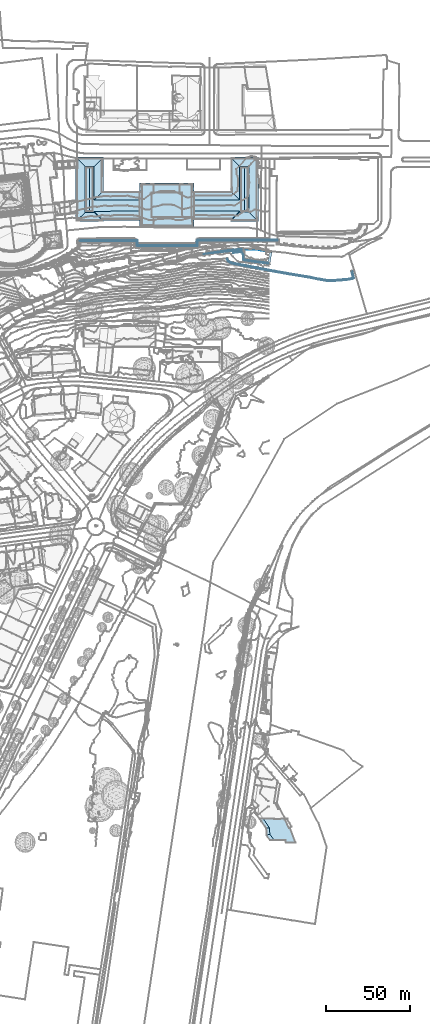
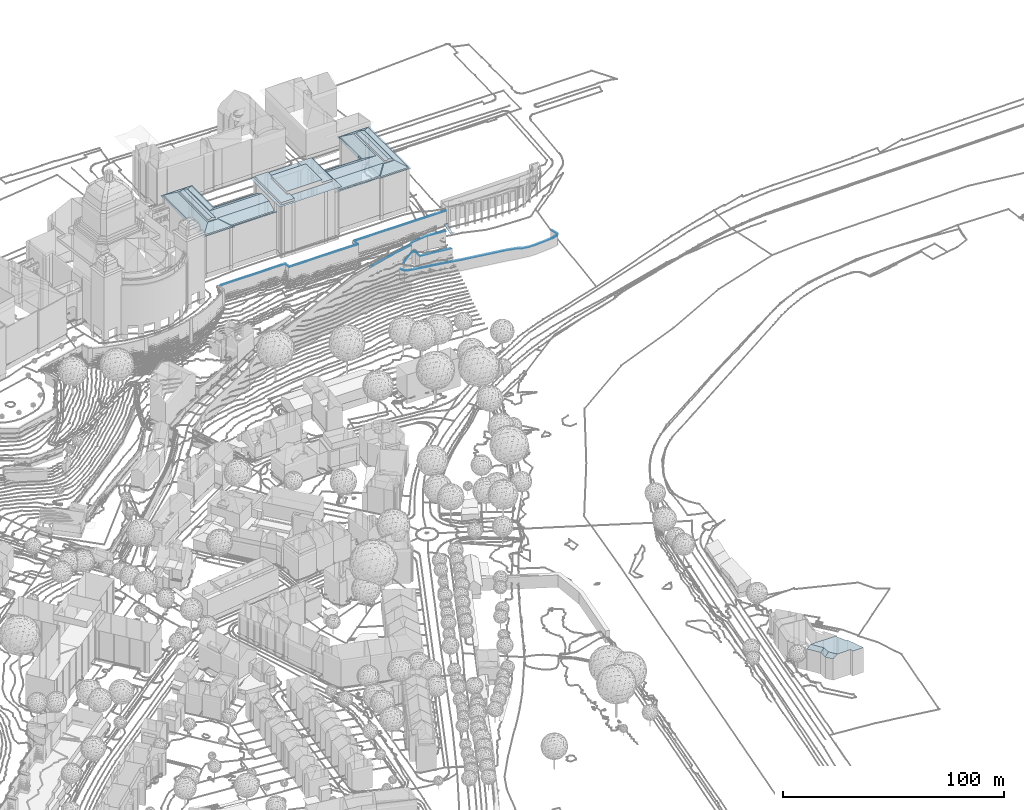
# Not in any storey, part 86 of 477: 17 roofs.
"""IFC4 building model written with IfcOpenShell, lengths in metres."""

import ifcopenshell
import ifcopenshell.guid

model = None  # the IFC model being written
_history = None  # IfcOwnerHistory: only IFC2X3 demands one
_inside = {}  # id of a spatial element -> (the spatial element, [elements in it])
_under = {}  # id of a project, library or spatial element -> (it, [spatial elements below it])
_declared = {}  # id of a project -> (the project, [libraries it declares])
_typed = {}  # id of a type object -> (the type object, [elements of that type])
_made_of = {}  # id of a material, layer set ... -> (it, [elements and type objects made of it])


def new_model(schema):
    """Start an empty IFC model of exactly this schema.

    Asked for "IFC4X3", IfcOpenShell would pick the latest addendum, in which some entities
    have other attributes; the version numbers below select the first issue.
    IFC2X3 requires an IfcOwnerHistory on every rooted entity: one is made here for all.
    """
    global model, _history
    if schema == "IFC4X3":
        model = ifcopenshell.file(schema_version=(4, 3, 0, 0))
    else:
        model = ifcopenshell.file(schema=schema)
    _inside.clear()
    _under.clear()
    _declared.clear()
    _typed.clear()
    _made_of.clear()
    _history = None
    if model.schema == "IFC2X3":
        org = make("IfcOrganization", Name="unknown")
        user = make(
            "IfcPersonAndOrganization",
            ThePerson=make("IfcPerson", FamilyName="unknown"),
            TheOrganization=org,
        )
        app = make(
            "IfcApplication",
            ApplicationDeveloper=org,
            Version="unknown",
            ApplicationFullName="unknown",
            ApplicationIdentifier="unknown",
        )
        _history = make(
            "IfcOwnerHistory",
            OwningUser=user,
            OwningApplication=app,
            ChangeAction="ADDED",
            CreationDate=0,
        )
    return model


def make(cls, **values):
    """One entity of the class cls with the attributes given. An attribute that is None is left unset."""
    return model.create_entity(
        cls, **{name: value for name, value in values.items() if value is not None}
    )


def rooted(cls, **values):
    """An entity with a GlobalId (a new one), such as an element, a storey or a relation."""
    return make(cls, GlobalId=ifcopenshell.guid.new(), OwnerHistory=_history, **values)


def si_unit(unit_type, name, prefix=None):
    """IfcSIUnit, for example si_unit("LENGTHUNIT", "METRE", prefix="MILLI")."""
    return make("IfcSIUnit", UnitType=unit_type, Prefix=prefix, Name=name)


def assignment(units):
    """IfcUnitAssignment: the units of a project."""
    return None if units is None else make("IfcUnitAssignment", Units=units)


def point(xyz):
    """IfcCartesianPoint."""
    return None if xyz is None else make("IfcCartesianPoint", Coordinates=xyz)


def direction(xyz):
    """IfcDirection."""
    return None if xyz is None else make("IfcDirection", DirectionRatios=xyz)


def frame(location, z_axis=None, x_axis=None):
    """IfcAxis2Placement3D, a coordinate frame: its origin and axes. An axis left out is left unset."""
    return make(
        "IfcAxis2Placement3D",
        Location=point(location),
        Axis=direction(z_axis),
        RefDirection=direction(x_axis),
    )


def origin_with_axes():
    """The frame at (0, 0, 0) with the z axis (0, 0, 1) and the x axis (1, 0, 0) written out."""
    return frame((0.0, 0.0, 0.0), z_axis=(0.0, 0.0, 1.0), x_axis=(1.0, 0.0, 0.0))


def place(relative_to, where):
    """IfcLocalPlacement: puts the frame where relative to a parent placement (None: the world)."""
    return make(
        "IfcLocalPlacement", PlacementRelTo=relative_to, RelativePlacement=where
    )


def context(
    kind, dimensions, precision=None, world=None, true_north=None, identifier=None
):
    """IfcGeometricRepresentationContext, for example the 3D "Model" context."""
    return make(
        "IfcGeometricRepresentationContext",
        ContextIdentifier=identifier,
        ContextType=kind,
        CoordinateSpaceDimension=dimensions,
        Precision=precision,
        WorldCoordinateSystem=world,
        TrueNorth=true_north,
    )


def subcontext(parent, identifier, kind, view, scale=None):
    """IfcGeometricRepresentationSubContext, for example "Body" below "Model"."""
    return make(
        "IfcGeometricRepresentationSubContext",
        ContextIdentifier=identifier,
        ContextType=kind,
        ParentContext=parent,
        TargetScale=scale,
        TargetView=view,
    )


def project(units=None, contexts=None):
    """IfcProject with its units and contexts."""
    return rooted(
        "IfcProject",
        Name="project",
        RepresentationContexts=contexts,
        UnitsInContext=assignment(units),
    )


def spatial(cls, under=None, at=None, **own):
    """A site, building, storey or space (cls), placed at a placement, below another one or the project."""
    s = rooted(cls, ObjectPlacement=at, **own)
    if under is not None:
        _under.setdefault(under.id(), (under, []))[1].append(s)
    return s


def point_list(points):
    """IfcCartesianPointList2D or 3D."""
    cls = (
        "IfcCartesianPointList2D" if len(points[0]) == 2 else "IfcCartesianPointList3D"
    )
    return make(cls, CoordList=points)


def polygons(points, faces, closed=None, point_numbers=None):
    """IfcPolygonalFaceSet: a face is its outer loop, then its inner loops; points numbered from 1."""
    made = []
    for loops in faces:
        if len(loops) == 1:
            made.append(make("IfcIndexedPolygonalFace", CoordIndex=loops[0]))
        else:
            made.append(
                make(
                    "IfcIndexedPolygonalFaceWithVoids",
                    CoordIndex=loops[0],
                    InnerCoordIndices=loops[1:],
                )
            )
    return make(
        "IfcPolygonalFaceSet",
        Coordinates=point_list(points),
        Closed=closed,
        Faces=made,
        PnIndex=point_numbers,
    )


def shape(context_of_items, identifier, shape_type, items):
    """IfcShapeRepresentation: the items that make up one representation, for example the "Body"."""
    return make(
        "IfcShapeRepresentation",
        ContextOfItems=context_of_items,
        RepresentationIdentifier=identifier,
        RepresentationType=shape_type,
        Items=items,
    )


def made_of(thing, what):
    """Note that an element or type object is made of a material, layer set ...; save() writes the relation."""
    if what is not None:
        _made_of.setdefault(what.id(), (what, []))[1].append(thing)
    return thing


def element(
    cls,
    number,
    at=None,
    inside=None,
    cuts=None,
    type_object=None,
    material=None,
    context=None,
    identifier="Body",
    shape_type=None,
    held_by="IfcProductDefinitionShape",
    body=None,
    shapes=None,
    **own,
):
    """One element of the class cls, such as IfcWall. Its Tag is "e" and its number.

    at: its placement. inside: the storey or other place that contains it. cuts: it is an
    opening in that element (IfcRelVoidsElement). A single representation is given by context,
    identifier, shape_type and body (its items); several are given by shapes. held_by: the class
    of the entity that holds the representations. save() writes the other relations.
    """
    e = rooted(cls, Tag="e%d" % number, ObjectPlacement=at, **own)
    if body is not None:
        shapes = [shape(context, identifier, shape_type, body)]
    if shapes is not None:
        e.Representation = make(held_by, Representations=shapes)
    if inside is not None:
        _inside.setdefault(inside.id(), (inside, []))[1].append(e)
    if cuts is not None:
        rooted(
            "IfcRelVoidsElement", RelatingBuildingElement=cuts, RelatedOpeningElement=e
        )
    if type_object is not None:
        _typed.setdefault(type_object.id(), (type_object, []))[1].append(e)
    return made_of(e, material)


def aggregate(whole, parts):
    """IfcRelAggregates: a whole, such as a stair, and the parts it consists of."""
    return rooted("IfcRelAggregates", RelatingObject=whole, RelatedObjects=parts)


def save(model, path):
    """Write the relations noted so far, then the file.

    IfcRelAggregates (storeys below a building ...), IfcRelContainedInSpatialStructure (elements
    in a storey), IfcRelDefinesByType, IfcRelAssociatesMaterial and IfcRelDeclares: one each for
    every whole, place, type object, material and project.
    """
    for whole, parts in _under.values():
        aggregate(whole, parts)
    for where, things in _inside.values():
        rooted(
            "IfcRelContainedInSpatialStructure",
            RelatedElements=things,
            RelatingStructure=where,
        )
    for kind, things in _typed.values():
        rooted("IfcRelDefinesByType", RelatedObjects=things, RelatingType=kind)
    for what, things in _made_of.values():
        rooted("IfcRelAssociatesMaterial", RelatedObjects=things, RelatingMaterial=what)
    for by, libraries in _declared.values():
        rooted("IfcRelDeclares", RelatingContext=by, RelatedDefinitions=libraries)
    model.write(path)


model = new_model("IFC4")

# Units and contexts
model_context = context("Model", 3, precision=1e-05, world=origin_with_axes())
body_context = subcontext(model_context, "Body", "Model", "MODEL_VIEW")
ifc_project = project(units=[si_unit("AREAUNIT", "SQUARE_METRE"), si_unit("LENGTHUNIT", "METRE")], contexts=[model_context])

# Sites, building
site_1_placement = place(None, origin_with_axes())
site_1 = spatial("IfcSite", under=ifc_project, at=site_1_placement, Name="Topoexport Site")
site_2_placement = place(site_1_placement, origin_with_axes())
site_2 = spatial("IfcSite", under=site_1, at=site_2_placement, Name="TPX_BUILDINGS")
building_1_placement = place(site_2_placement, frame((211.8297320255, 101.9383160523, 526.7541), z_axis=(0.0, 0.0, 1.0), x_axis=(1.0, 0.0, 0.0)))
building_1 = spatial("IfcBuilding", under=site_2, at=building_1_placement, Name="Building 18", CompositionType="ELEMENT")

# Roofs
roof_1_placement = place(None, frame((211.8297320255, 101.9383160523, 526.7541), z_axis=(0.0, 0.0, 1.0), x_axis=(1.0, 0.0, 0.0)))
element("IfcRoof", 1, at=roof_1_placement, inside=building_1, Name="Roof 1", context=body_context, shape_type="Tessellation", body=[
    polygons([(481.6610000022, 258.5654000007, 13.2577), (458.5340000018, 258.5155999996, 13.2578), (458.5340000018, 259.1182000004, 13.2578), (481.6600000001, 259.1680000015, 13.2578), (373.694000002, 259.0078000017, 13.3187), (373.694000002, 258.4043000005, 13.3187), (363.3159999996, 258.4228000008, 13.3187), (363.3269999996, 259.0254000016, 13.3187), (397.2360000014, 258.4268000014, 13.3188), (397.8360000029, 259.0302999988, 13.3188), (397.8530000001, 256.0516999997, 13.3188), (397.2530000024, 255.4492000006, 13.3188), (433.2310000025, 256.0078000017, 13.3188), (433.8430000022, 255.4032999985, 13.3188), (433.7950000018, 258.5439000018, 13.3188), (433.1830000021, 259.1475000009, 13.3188)], [[[3, 2, 1]], [[1, 4, 3]], [[7, 6, 5]], [[7, 5, 8]], [[5, 6, 9]], [[5, 9, 10]], [[9, 12, 11]], [[12, 13, 11]], [[13, 12, 14]], [[13, 14, 15]], [[15, 16, 13]], [[11, 10, 9]], [[16, 15, 3]], [[2, 3, 15]]]),
])
roof_2_placement = place(None, frame((211.8297320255, 101.9383160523, 526.7541), z_axis=(0.0, 0.0, 1.0), x_axis=(1.0, 0.0, 0.0)))
element("IfcRoof", 2, at=roof_2_placement, inside=building_1, Name="Roof 50", context=body_context, shape_type="Tessellation", body=[
    polygons([(460.1730000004, 253.6680000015, 4.9256), (457.8430000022, 252.7675999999, 4.8446), (457.7770000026, 253.4296999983, 4.8446), (460.2239999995, 253.1543000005, 4.9256), (449.8500000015, 251.9706999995, 4.0297), (436.7320000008, 250.5683000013, 2.4808), (449.7650000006, 252.6308000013, 4.0297)], [[[3, 2, 1]], [[4, 1, 2]], [[7, 6, 5]], [[2, 3, 5]], [[7, 5, 3]]]),
])
roof_3_placement = place(None, frame((211.8297320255, 101.9383160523, 526.7541), z_axis=(0.0, 0.0, 1.0), x_axis=(1.0, 0.0, 0.0)))
element("IfcRoof", 3, at=roof_3_placement, inside=building_1, Name="Roof 51", context=body_context, shape_type="Tessellation", body=[
    polygons([(468.6530000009, 253.8467000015, 7.0034), (477.5230000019, 252.2578000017, 7.7073), (477.4140000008, 251.6435000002, 7.7063), (468.6080000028, 253.2734000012, 7.0034), (460.2239999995, 253.1543000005, 6.2074), (460.1730000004, 253.6708999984, 6.2034)], [[[3, 2, 1]], [[1, 4, 3]], [[4, 1, 5]], [[6, 5, 1]]]),
])
roof_4_placement = place(None, frame((211.8297320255, 101.9383160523, 526.7541), z_axis=(0.0, 0.0, 1.0), x_axis=(1.0, 0.0, 0.0)))
element("IfcRoof", 4, at=roof_4_placement, inside=building_1, Name="Roof 52", context=body_context, shape_type="Tessellation", body=[
    polygons([(476.2829999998, 245.2578000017, 2.5478), (475.7760000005, 244.870099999, 2.5538), (475.8460000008, 245.3339999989, 2.5538), (476.2010000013, 244.7958999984, 2.5478), (467.7980000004, 246.3330000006, 2.5538), (467.7340000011, 245.8691000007, 2.5538), (460.9220000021, 246.9032999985, 2.3698), (461.3780000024, 247.308600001, 2.3698), (460.8049999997, 250.5009999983, 2.3698), (461.2690000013, 250.6649999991, 2.3698), (459.8090000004, 251.8104999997, 2.1868), (460.0170000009, 252.3104999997, 2.1868), (455.0830000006, 251.1865000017, -1.6508), (459.9189999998, 252.2978000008, 1.9069), (455.1900000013, 251.2001999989, -1.7688), (455.0830000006, 251.1865000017, -1.8508), (460.0170000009, 252.3104999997, 1.9868), (455.0210000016, 251.6513999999, -1.6508)], [[[3, 2, 1]], [[4, 1, 2]], [[2, 3, 5]], [[5, 6, 2]], [[5, 7, 6]], [[7, 5, 8]], [[10, 9, 8]], [[7, 8, 9]], [[9, 12, 11]], [[10, 12, 9]], [[12, 13, 11]], [[16, 15, 14]], [[17, 14, 15]], [[13, 12, 18]]]),
])
roof_5_placement = place(None, frame((211.8297320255, 101.9383160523, 526.7541), z_axis=(0.0, 0.0, 1.0), x_axis=(1.0, 0.0, 0.0)))
element("IfcRoof", 5, at=roof_5_placement, inside=building_1, Name="Roof 81", context=body_context, shape_type="Tessellation", body=[
    polygons([(500.449000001, 236.4404000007, -1.8389), (488.8709999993, 238.9609000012, -1.8388), (500.5580000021, 237.0214999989, -1.8389), (488.7719999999, 238.378899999, -1.8388), (479.5970000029, 239.9638000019, -1.8388), (468.1980000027, 242.1719000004, -1.8388), (468.3090000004, 242.7518999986, -1.8388), (479.7039999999, 240.5458999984, -1.8388), (505.7670000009, 235.9442999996, -2.0218), (505.6630000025, 235.3623000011, -2.0218), (514.381000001, 235.0117000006, -2.5718), (510.9680000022, 234.4814000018, -2.5718), (511.0240000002, 235.0713, -2.5718), (507.7270000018, 235.6435000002, -2.5718), (507.632000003, 235.0595999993, -2.5718), (514.3969999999, 234.4189000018, -2.5718), (523.4180000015, 235.7626999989, -2.5718), (523.5020000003, 235.1766999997, -2.5718), (518.5439999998, 234.7256000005, -2.5718), (518.4959999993, 235.3154000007, -2.5718), (526.4680000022, 235.7578000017, -2.2968), (523.5022, 235.1766999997, -2.774), (526.4681000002, 235.7573999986, -2.4969), (526.4169999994, 235.7470000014, -2.5018), (526.2390000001, 236.3154000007, -2.2968), (527.2090000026, 236.2470999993, -1.8389), (526.5410000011, 236.5146000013, -1.8389), (525.7050000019, 240.1484000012, -1.8389), (526.25, 240.4120999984, -1.8389), (450.9820000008, 247.8495999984, -1.9298), (452.6150000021, 246.2402000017, -1.9298), (452.188000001, 245.8007999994, -1.9298), (454.012000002, 245.4717000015, -1.9298), (451.4920000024, 248.1493999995, -1.9298), (453.8090000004, 244.9072000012, -1.9298)], [[[3, 2, 1]], [[4, 1, 2]], [[2, 5, 4]], [[8, 7, 6]], [[6, 5, 8]], [[8, 5, 2]], [[3, 1, 9]], [[10, 9, 1]], [[13, 12, 11]], [[15, 13, 14]], [[13, 15, 12]], [[12, 16, 11]], [[19, 18, 17]], [[11, 16, 20]], [[17, 20, 19]], [[20, 16, 19]], [[21, 17, 18]], [[24, 23, 22]], [[26, 25, 21]], [[17, 21, 25]], [[28, 27, 26]], [[28, 26, 29]], [[15, 14, 9]], [[9, 10, 15]], [[32, 31, 30]], [[31, 32, 33]], [[34, 30, 31]], [[35, 6, 33]], [[7, 33, 6]], [[35, 33, 32]], [[25, 26, 27]]]),
])
roof_6_placement = place(None, frame((211.8297320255, 101.9383160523, 526.7541), z_axis=(0.0, 0.0, 1.0), x_axis=(1.0, 0.0, 0.0)))
element("IfcRoof", 6, at=roof_6_placement, inside=building_1, Name="Roof 87", context=body_context, shape_type="Tessellation", body=[
    polygons([(478.7250000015, 252.2930000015, 11.1179), (478.1689999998, 252.2050999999, 11.1179), (476.8360000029, 252.6338, 11.118), (475.5580000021, 244.808600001, 11.1179), (478.6970000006, 252.1220999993, 11.1179), (477.4470000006, 244.4657999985, 11.1179), (476.938000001, 244.6649999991, 11.1179), (477.4640000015, 244.5722000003, 11.1179), (477.2010000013, 244.621100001, 11.1179)], [[[3, 2, 1]], [[2, 3, 4]], [[5, 1, 2]], [[7, 4, 6]], [[4, 7, 2]], [[9, 6, 8]], [[6, 9, 7]]]),
])

# Building
building_2_placement = place(site_2_placement, frame((682.616732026, 15.1316160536, 498.9643), z_axis=(0.0, 0.0, 1.0), x_axis=(1.0, 0.0, 0.0)))
building_2 = spatial("IfcBuilding", under=site_2, at=building_2_placement, Name="Building 187", CompositionType="ELEMENT")

# Roof
roof_7_placement = place(None, frame((682.616732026, 15.1316160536, 498.9643), z_axis=(0.0, 0.0, 1.0), x_axis=(1.0, 0.0, 0.0)))
element("IfcRoof", 7, at=roof_7_placement, inside=building_2, Name="Roof 0", context=body_context, shape_type="Tessellation", body=[
    polygons([(0.5950000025, 0.0078999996, 12.3008), (5.9189999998, -5.4033000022, 13.6636), (1.1270000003, -1.5361000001, 11.8438), (1.0600000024, -1.4824000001, 11.8178), (2.1720000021, 0.0273999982, 13.6636), (3.3480000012, -4.5625, 11.8178), (-0.0379999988, 0.0020000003, 11.8178), (0.0, 0.0, 11.8468), (8.512000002, 0.1083999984, 13.6986), (8.7820000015, -0.058600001, 13.6976), (8.7800000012, 0.111399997, 13.6986), (8.9470000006, -0.0566000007, 13.6976), (15.074000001, -0.3164000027, 13.7346), (14.9220000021, 0.0196000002, 13.7346), (17.5820000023, -5.5849000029, 13.7346), (10.2690000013, -12.7324000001, 13.6706), (9.0830000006, -12.7470000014, 13.6636), (15.637000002, -0.1053999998, 13.7346), (15.561999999, 0.0273999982, 13.7346), (10.300999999, -12.7324000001, 13.6706), (18.1359999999, -5.3476000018, 13.7346), (15.6960000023, -12.6611000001, 13.7036), (21.4649999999, -14.1865000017, 13.7346), (15.7170000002, -14.2617000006, 13.6996), (8.8110000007, -12.7509000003, 13.6636), (6.0520000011, -9.1816000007, 13.6636), (6.4220000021, -12.7861000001, 11.8178), (4.1150000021, -9.6581999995, 11.8718), (4.1160000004, -9.7519000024, 11.8178), (4.0560000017, -9.6718000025, 11.8178), (4.0549999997, -5.5224000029, 11.8178)], [[[3, 2, 1]], [[3, 1, 4]], [[1, 2, 5]], [[6, 2, 3]], [[3, 4, 6]], [[8, 7, 4]], [[8, 4, 1]], [[5, 2, 9]], [[9, 2, 10]], [[10, 11, 9]], [[12, 10, 2]], [[12, 2, 13]], [[13, 14, 12]], [[15, 13, 2]], [[2, 17, 16]], [[16, 15, 2]], [[14, 13, 18]], [[18, 19, 14]], [[16, 20, 15]], [[21, 15, 20]], [[20, 22, 21]], [[23, 21, 22]], [[23, 22, 24]], [[2, 26, 25]], [[25, 17, 2]], [[25, 26, 27]], [[29, 27, 28]], [[28, 30, 29]], [[26, 28, 27]], [[31, 26, 2]], [[31, 30, 28]], [[28, 26, 31]], [[2, 6, 31]]]),
])

# Building
building_3_placement = place(site_2_placement, frame((572.3587320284, 408.4910160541, 550.1071), z_axis=(0.0, 0.0, 1.0), x_axis=(1.0, 0.0, 0.0)))
building_3 = spatial("IfcBuilding", under=site_2, at=building_3_placement, Name="Building 194", CompositionType="ELEMENT")

# Roofs
roof_8_placement = place(None, frame((572.3587320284, 408.4910160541, 550.1071), z_axis=(0.0, 0.0, 1.0), x_axis=(1.0, 0.0, 0.0)))
element("IfcRoof", 8, at=roof_8_placement, inside=building_3, Name="Roof 0", context=body_context, shape_type="Tessellation", body=[
    polygons([(6.6459999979, -30.3203000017, 13.5455), (10.6089999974, -30.3193000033, 13.5455), (5.9449999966, -31.0781000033, 13.5455), (11.3729999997, -31.0752000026, 13.5455), (6.6349999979, -4.3623000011, 13.5457), (10.5989999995, -4.3613000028, 13.5457), (5.9339999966, -3.4980000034, 13.5457), (11.362999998, -3.496100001, 13.5457), (11.3699999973, -23.6347000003, 13.5455), (38.5969999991, -30.3076000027, 13.5456), (11.3729999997, -30.3183000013, 13.5455), (38.5949999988, -23.6240000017, 13.5456), (16.0109999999, -19.0781000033, 10.7918), (38.5929999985, -19.0693000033, 10.7919), (16.0179999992, -34.871100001, 10.7917), (38.5989999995, -34.8623000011, 10.7919), (16.0179999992, -35.5986000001, 10.7917), (16.0029999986, 1.0302999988, 10.792), (2.5319999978, 1.0243999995, 10.792), (1.2899999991, 1.0243999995, 10.792), (14.682, 1.0292999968, 10.792), (1.3039999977, -35.6045000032, 10.7918)], [[[3, 2, 1]], [[2, 3, 4]], [[3, 1, 5]], [[7, 5, 6]], [[5, 7, 3]], [[7, 6, 8]], [[2, 9, 6]], [[11, 10, 9]], [[11, 9, 2]], [[9, 8, 6]], [[12, 9, 10]], [[11, 2, 4]], [[13, 9, 12]], [[12, 14, 13]], [[11, 15, 10]], [[16, 10, 15]], [[11, 4, 15]], [[17, 15, 4]], [[8, 9, 13]], [[13, 18, 8]], [[20, 7, 19]], [[19, 7, 21]], [[8, 18, 21]], [[8, 21, 7]], [[20, 22, 7]], [[3, 7, 22]], [[3, 22, 17]], [[17, 4, 3]]]),
])
roof_9_placement = place(None, frame((572.3587320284, 408.4910160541, 550.1071), z_axis=(0.0, 0.0, 1.0), x_axis=(1.0, 0.0, 0.0)))
element("IfcRoof", 9, at=roof_9_placement, inside=building_3, Name="Roof 1", context=body_context, shape_type="Tessellation", body=[
    polygons([(1.3039999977, -35.6045000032, 10.2878), (0.3549999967, -36.3994000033, 10.2878), (1.2899999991, 1.0243999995, 10.288), (16.9409999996, -36.3935000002, 10.2878), (16.0179999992, -35.5986000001, 10.2878), (16.9409999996, -35.7031000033, 10.2878), (16.0179999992, -34.871100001, 10.2878), (16.0109999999, -19.0781000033, 10.2878), (16.0029999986, 1.0302999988, 10.288), (16.9339999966, -18.1728000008, 10.2878), (2.5319999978, 1.0243999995, 10.288), (0.3399999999, 1.9648999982, 10.288), (14.682, 1.0292999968, 10.288), (16.925999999, 1.9716999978, 10.288), (2.5319999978, 1.003899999, 10.288), (14.682, 1.0068999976, 10.288), (38.5989999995, -34.8623000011, 10.2879), (38.5989999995, -35.0869000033, 10.2879), (39.6439999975, -35.0849000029, 10.2879), (39.6429999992, -35.6943000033, 10.2879), (39.7229999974, -18.1640000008, 10.2879), (38.5929999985, -18.8818000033, 10.2879), (38.5929999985, -19.0693000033, 10.2879), (39.7239999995, -18.8838, 10.2879)], [[[3, 2, 1]], [[5, 1, 4]], [[7, 5, 6]], [[10, 9, 8]], [[1, 2, 4]], [[12, 3, 11]], [[3, 12, 2]], [[12, 11, 13]], [[12, 13, 14]], [[13, 11, 15]], [[16, 13, 15]], [[14, 13, 9]], [[7, 6, 17]], [[6, 18, 17]], [[18, 20, 19]], [[18, 6, 20]], [[10, 22, 21]], [[14, 9, 10]], [[22, 10, 23]], [[24, 21, 22]], [[8, 23, 10]], [[5, 4, 6]]]),
])
roof_10_placement = place(None, frame((572.3587320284, 408.4910160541, 550.1071), z_axis=(0.0, 0.0, 1.0), x_axis=(1.0, 0.0, 0.0)))
element("IfcRoof", 10, at=roof_10_placement, inside=building_3, Name="Roof 4", context=body_context, shape_type="Tessellation", body=[
    polygons([(10.5989999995, -4.3613000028, 14.2046), (8.6849999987, -30.3193000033, 14.6794), (8.674999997, -4.3613000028, 14.6796), (10.6089999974, -30.3193000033, 14.2044), (6.6459999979, -30.3203000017, 14.2044), (6.6349999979, -4.3623000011, 14.2046)], [[[3, 2, 1]], [[4, 1, 2]], [[6, 5, 3]], [[2, 3, 5]]]),
])
roof_11_placement = place(None, frame((572.3587320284, 408.4910160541, 550.1071), z_axis=(0.0, 0.0, 1.0), x_axis=(1.0, 0.0, 0.0)))
element("IfcRoof", 11, at=roof_11_placement, inside=building_3, Name="Roof 5", context=body_context, shape_type="Tessellation", body=[
    polygons([(64.1459999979, -33.9043000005, 18.4771), (45.7109999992, -33.9121000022, 18.4771), (45.7049999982, -19.3359000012, 18.4771), (64.1399999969, -19.3291000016, 18.4771)], [[[3, 2, 1]], [[1, 4, 3]]]),
])
roof_12_placement = place(None, frame((572.3587320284, 408.4910160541, 550.1071), z_axis=(0.0, 0.0, 1.0), x_axis=(1.0, 0.0, 0.0)))
element("IfcRoof", 12, at=roof_12_placement, inside=building_3, Name="Roof 6", context=body_context, shape_type="Tessellation", body=[
    polygons([(45.7109999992, -33.9121000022, 16.9103), (40.123999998, -38.5342000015, 16.9103), (41.5719999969, -14.3994000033, 16.9105), (47.1019999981, -38.5312000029, 16.9103), (45.7049999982, -19.3359000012, 16.9103), (40.1149999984, -14.4062000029, 16.9105), (45.4669999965, -14.3994000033, 16.9105), (47.0919999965, -14.4043000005, 16.9105), (47.0939999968, -19.3349000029, 16.9103), (47.0999999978, -33.9121000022, 16.9103)], [[[3, 2, 1]], [[1, 2, 4]], [[3, 1, 5]], [[2, 3, 6]], [[3, 5, 7]], [[5, 8, 7]], [[9, 8, 5]], [[10, 1, 4]]]),
])
roof_13_placement = place(None, frame((572.3587320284, 408.4910160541, 550.1071), z_axis=(0.0, 0.0, 1.0), x_axis=(1.0, 0.0, 0.0)))
element("IfcRoof", 13, at=roof_13_placement, inside=building_3, Name="Roof 7", context=body_context, shape_type="Tessellation", body=[
    polygons([(47.1019999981, -38.5312000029, 15.7714), (38.6009999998, -39.8340000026, 15.7714), (40.123999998, -38.5342000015, 15.7714), (41.5719999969, -14.3965000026, 15.7716), (40.1149999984, -14.4062000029, 15.7716), (38.5909999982, -13.3867000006, 15.7716), (46.9689999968, -14.4043000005, 15.7716), (47.0919999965, -14.438500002, 15.7716), (46.9689999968, -14.438500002, 15.7716), (62.7609999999, -14.3984000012, 15.7716), (71.0319999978, -13.3730000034, 15.7716), (62.6499999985, -19.3300999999, 15.7714), (47.0939999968, -19.3349000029, 15.7714), (47.0999999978, -33.9111000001, 15.7714), (69.8039999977, -33.9023000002, 15.7713), (62.6479999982, -14.433600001, 15.7716), (71.0419999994, -39.8213, 15.7713), (69.7969999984, -14.3955000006, 15.7716), (62.7599999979, -14.433600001, 15.7716)], [[[3, 2, 1]], [[6, 5, 4]], [[5, 6, 2]], [[2, 3, 5]], [[6, 4, 7]], [[7, 9, 8]], [[7, 8, 10]], [[6, 7, 11]], [[13, 12, 8]], [[15, 14, 1]], [[12, 16, 8]], [[17, 15, 1]], [[15, 11, 18]], [[1, 2, 17]], [[11, 15, 17]], [[16, 19, 10]], [[16, 10, 8]], [[18, 11, 10]], [[10, 11, 7]]]),
])
roof_14_placement = place(None, frame((572.3587320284, 408.4910160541, 550.1071), z_axis=(0.0, 0.0, 1.0), x_axis=(1.0, 0.0, 0.0)))
element("IfcRoof", 14, at=roof_14_placement, inside=building_3, Name="Roof 8", context=body_context, shape_type="Tessellation", body=[
    polygons([(62.6479999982, -14.3984000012, 16.9105), (64.1399999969, -19.3291000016, 16.9103), (62.6499999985, -19.3300999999, 16.9103), (69.8039999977, -33.9023000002, 16.9102), (64.1459999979, -33.9043000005, 16.9102), (69.7969999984, -14.3955000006, 16.9105)], [[[3, 2, 1]], [[5, 4, 2]], [[2, 6, 1]], [[6, 2, 4]]]),
])
roof_15_placement = place(None, frame((572.3587320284, 408.4910160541, 550.1071), z_axis=(0.0, 0.0, 1.0), x_axis=(1.0, 0.0, 0.0)))
element("IfcRoof", 15, at=roof_15_placement, inside=building_3, Name="Roof 9", context=body_context, shape_type="Tessellation", body=[
    polygons([(71.0399999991, -35.0322000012, 10.2879), (70.1159999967, -35.6826000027, 10.2879), (70.1140000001, -35.0410000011, 10.2879), (92.8789999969, -35.6728000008, 10.2878), (71.0399999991, -34.8506000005, 10.2879), (93.6469999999, -34.8418000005, 10.2878), (70.0659999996, -18.1523000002, 10.2879), (92.8719999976, -18.1435000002, 10.2879), (71.0339999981, -18.8506000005, 10.2879), (70.0659999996, -18.8574000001, 10.2879), (93.6389999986, -15.8144000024, 10.2881), (92.8640000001, 2.0019999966, 10.2881), (71.0339999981, -19.0566000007, 10.2879), (93.6329999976, -0.2109000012, 10.2881), (93.6319999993, 1.0605999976, 10.2881), (93.6839999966, -0.2109000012, 10.2881), (93.6389999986, -16.3506000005, 10.2881), (93.6399999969, -18.1279000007, 10.2879), (108.443, 1.066399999, 10.2881), (93.6469999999, -35.567400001, 10.2878), (92.8789999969, -36.3633000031, 10.2878), (93.6399999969, -19.0469000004, 10.2879), (93.6399999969, -18.6543000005, 10.2879), (93.7390000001, -18.6543000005, 10.2879), (93.6399999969, -18.8642000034, 10.2879), (108.4569999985, -35.5625, 10.2878), (109.4659999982, -36.3564000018, 10.2878), (93.7390000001, -18.8642000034, 10.2879), (93.7009999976, -15.8144000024, 10.2881), (93.8829999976, -18.1269000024, 10.2879), (93.868999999, -16.3496000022, 10.2881), (109.4509999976, 2.0077999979, 10.2881)], [[[3, 2, 1]], [[4, 1, 2]], [[5, 1, 4]], [[6, 5, 4]], [[9, 8, 7]], [[9, 7, 10]], [[12, 8, 11]], [[9, 13, 8]], [[12, 11, 14]], [[15, 12, 14]], [[11, 16, 14]], [[11, 8, 17]], [[17, 8, 18]], [[12, 15, 19]], [[4, 21, 20]], [[13, 22, 8]], [[25, 24, 23]], [[23, 8, 25]], [[25, 8, 22]], [[21, 26, 20]], [[26, 21, 27]], [[28, 24, 25]], [[4, 20, 6]], [[19, 26, 27]], [[16, 11, 29]], [[18, 30, 17]], [[31, 17, 30]], [[32, 12, 19]], [[27, 32, 19]], [[23, 18, 8]]]),
])
roof_16_placement = place(None, frame((572.3587320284, 408.4910160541, 550.1071), z_axis=(0.0, 0.0, 1.0), x_axis=(1.0, 0.0, 0.0)))
element("IfcRoof", 16, at=roof_16_placement, inside=building_3, Name="Roof 10", context=body_context, shape_type="Tessellation", body=[
    polygons([(103.1019999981, -4.3242000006, 14.2047), (101.1879999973, -30.2832000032, 14.6794), (101.1779999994, -4.3252000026, 14.6797), (103.1119999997, -30.2822000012, 14.2045), (99.1479999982, -30.2842000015, 14.2045), (99.1379999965, -4.326100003, 14.2047)], [[[3, 2, 1]], [[4, 1, 2]], [[6, 5, 3]], [[2, 3, 5]]]),
])
roof_17_placement = place(None, frame((572.3587320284, 408.4910160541, 550.1071), z_axis=(0.0, 0.0, 1.0), x_axis=(1.0, 0.0, 0.0)))
element("IfcRoof", 17, at=roof_17_placement, inside=building_3, Name="Roof 11", context=body_context, shape_type="Tessellation", body=[
    polygons([(108.4569999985, -35.5625, 10.7918), (93.6469999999, -35.567400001, 10.7918), (98.2390000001, -30.876000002, 13.5455), (103.8619999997, -30.8730000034, 13.5455), (108.443, 1.066399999, 10.792), (103.8509999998, -3.625, 13.5458), (98.2280000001, -3.6269000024, 13.5458), (93.6319999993, 1.0605999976, 10.7921), (93.6469999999, -34.8418000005, 10.7918), (98.2390000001, -30.2842000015, 13.5455), (71.0399999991, -34.8506000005, 10.7918), (71.0379999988, -30.2949000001, 13.5456), (98.2359999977, -23.6016000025, 13.5455), (93.6389999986, -16.3506000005, 10.792), (93.6389999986, -15.8144000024, 10.792), (93.6329999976, -0.2109000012, 10.7921), (93.6399999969, -18.1279000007, 10.7918), (93.6399999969, -18.8642000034, 10.7918), (93.6399999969, -19.0469000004, 10.7918), (93.6399999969, -18.6543000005, 10.7918), (71.0359999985, -23.6123000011, 13.5456), (71.0339999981, -19.0566000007, 10.7918), (99.1479999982, -30.2842000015, 13.5455), (99.1379999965, -4.3262000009, 13.5458), (103.1119999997, -30.2822000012, 13.5455), (103.1019999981, -4.3242000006, 13.5458)], [[[3, 2, 1]], [[1, 4, 3]], [[6, 4, 5]], [[1, 5, 4]], [[8, 7, 6]], [[6, 5, 8]], [[9, 2, 3]], [[3, 10, 9]], [[12, 11, 9]], [[9, 10, 12]], [[15, 14, 13]], [[7, 16, 15]], [[8, 16, 7]], [[13, 14, 17]], [[19, 13, 18]], [[18, 13, 20]], [[13, 7, 15]], [[13, 17, 20]], [[22, 21, 19]], [[13, 19, 21]], [[10, 3, 23]], [[12, 10, 21]], [[13, 21, 10]], [[24, 7, 13]], [[13, 10, 23]], [[23, 4, 25]], [[4, 23, 3]], [[4, 26, 25]], [[24, 13, 23]], [[26, 6, 24]], [[4, 6, 26]], [[24, 6, 7]]]),
])

save(model, "model.ifc")
